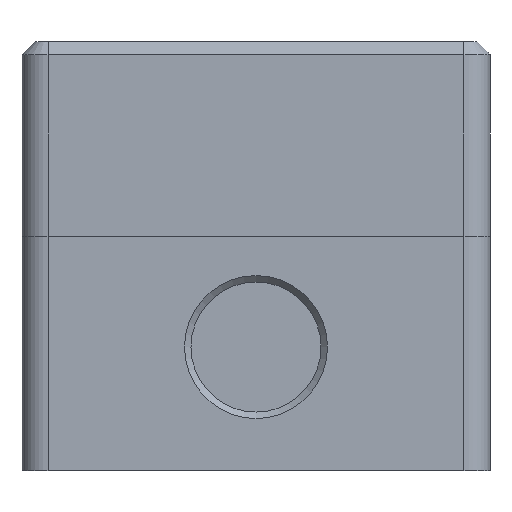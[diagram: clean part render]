
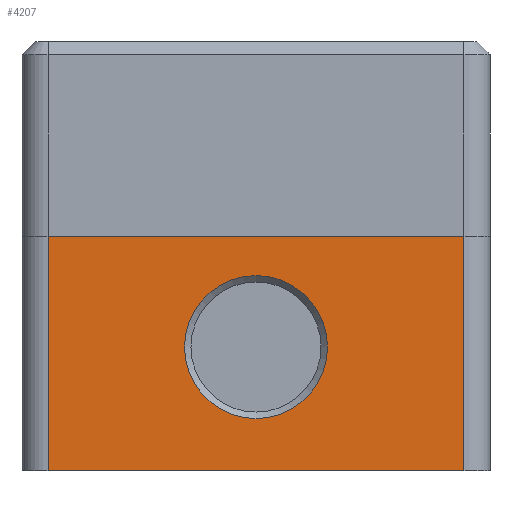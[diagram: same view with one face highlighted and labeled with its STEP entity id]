
A CAD part, front view. The second image highlights one B-rep face of the part: STEP entity #4207.
In plain terms, the highlighted planar face has unit normal (0, -1, 0).
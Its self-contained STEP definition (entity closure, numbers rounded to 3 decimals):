
#586 = EDGE_CURVE ( 'NONE', #13433, #10030, #2852, .T. ) ;
#649 = ORIENTED_EDGE ( 'NONE', *, *, #13305, .F. ) ;
#716 = VECTOR ( 'NONE', #13774, 1000. ) ;
#967 = LINE ( 'NONE', #9848, #14177 ) ;
#1111 = ORIENTED_EDGE ( 'NONE', *, *, #2153, .T. ) ;
#1202 = DIRECTION ( 'NONE',  ( 0., 1., 0. ) ) ;
#1435 = CARTESIAN_POINT ( 'NONE',  ( 36., 0., 30. ) ) ;
#1578 = LINE ( 'NONE', #13832, #13474 ) ;
#1879 = CARTESIAN_POINT ( 'NONE',  ( 4., 0., 0. ) ) ;
#1935 = DIRECTION ( 'NONE',  ( 1., 0., 0. ) ) ;
#2153 = EDGE_CURVE ( 'NONE', #11702, #13433, #14277, .T. ) ;
#2436 = CIRCLE ( 'NONE', #4914, 11. ) ;
#2852 = LINE ( 'NONE', #14025, #9557 ) ;
#4207 = ADVANCED_FACE ( 'NONE', ( #8812, #6606 ), #12110, .F. ) ;
#4914 = AXIS2_PLACEMENT_3D ( 'NONE', #10708, #1202, #11741 ) ;
#4959 = CARTESIAN_POINT ( 'NONE',  ( 4., 0., 36. ) ) ;
#5122 = ORIENTED_EDGE ( 'NONE', *, *, #7965, .F. ) ;
#5170 = DIRECTION ( 'NONE',  ( 0., 1., 0. ) ) ;
#6230 = ORIENTED_EDGE ( 'NONE', *, *, #9081, .T. ) ;
#6606 = FACE_OUTER_BOUND ( 'NONE', #8407, .T. ) ;
#7263 = VERTEX_POINT ( 'NONE', #11772 ) ;
#7264 = EDGE_LOOP ( 'NONE', ( #6230 ) ) ;
#7574 = DIRECTION ( 'NONE',  ( 0., 0., 1. ) ) ;
#7965 = EDGE_CURVE ( 'NONE', #11702, #7263, #1578, .T. ) ;
#8407 = EDGE_LOOP ( 'NONE', ( #10016, #649, #5122, #1111 ) ) ;
#8812 = FACE_BOUND ( 'NONE', #7264, .T. ) ;
#9081 = EDGE_CURVE ( 'NONE', #11239, #11239, #2436, .T. ) ;
#9557 = VECTOR ( 'NONE', #1935, 1000. ) ;
#9748 = DIRECTION ( 'NONE',  ( 0., 0., -1. ) ) ;
#9848 = CARTESIAN_POINT ( 'NONE',  ( 68., 0., 36. ) ) ;
#10016 = ORIENTED_EDGE ( 'NONE', *, *, #586, .T. ) ;
#10030 = VERTEX_POINT ( 'NONE', #12858 ) ;
#10195 = AXIS2_PLACEMENT_3D ( 'NONE', #14756, #5170, #7574 ) ;
#10708 = CARTESIAN_POINT ( 'NONE',  ( 36., 0., 19. ) ) ;
#11239 = VERTEX_POINT ( 'NONE', #1435 ) ;
#11382 = CARTESIAN_POINT ( 'NONE',  ( 4., 0., 36. ) ) ;
#11594 = DIRECTION ( 'NONE',  ( 1., 0., 0. ) ) ;
#11702 = VERTEX_POINT ( 'NONE', #4959 ) ;
#11741 = DIRECTION ( 'NONE',  ( 0., 0., 1. ) ) ;
#11772 = CARTESIAN_POINT ( 'NONE',  ( 68., 0., 36. ) ) ;
#12110 = PLANE ( 'NONE',  #10195 ) ;
#12858 = CARTESIAN_POINT ( 'NONE',  ( 68., 0., 0. ) ) ;
#13305 = EDGE_CURVE ( 'NONE', #7263, #10030, #967, .T. ) ;
#13433 = VERTEX_POINT ( 'NONE', #1879 ) ;
#13474 = VECTOR ( 'NONE', #11594, 1000. ) ;
#13774 = DIRECTION ( 'NONE',  ( 0., 0., -1. ) ) ;
#13832 = CARTESIAN_POINT ( 'NONE',  ( 4., 0., 36. ) ) ;
#14025 = CARTESIAN_POINT ( 'NONE',  ( 4., 0., 0. ) ) ;
#14177 = VECTOR ( 'NONE', #9748, 1000. ) ;
#14277 = LINE ( 'NONE', #11382, #716 ) ;
#14756 = CARTESIAN_POINT ( 'NONE',  ( 4., 0., 36. ) ) ;
